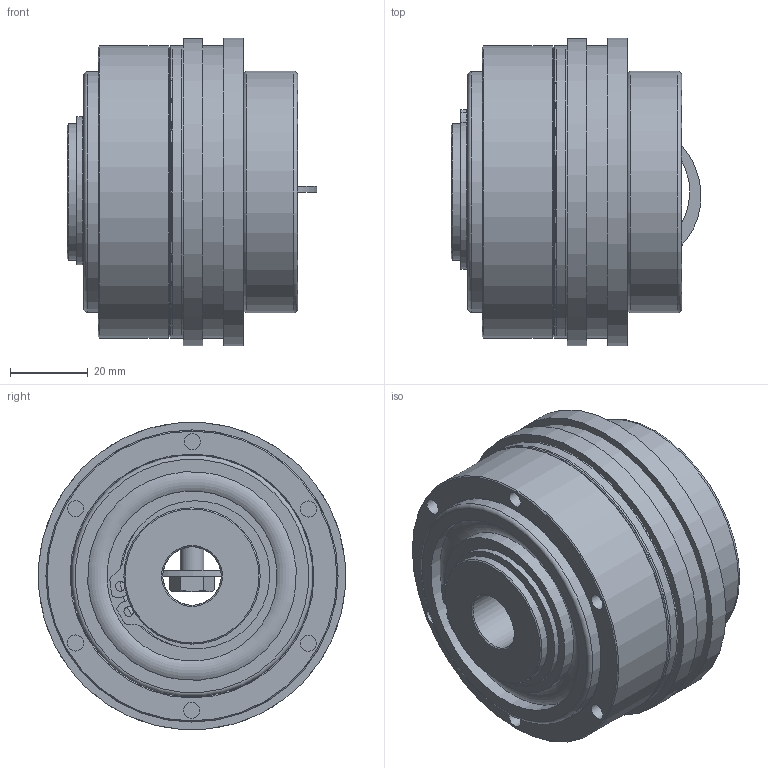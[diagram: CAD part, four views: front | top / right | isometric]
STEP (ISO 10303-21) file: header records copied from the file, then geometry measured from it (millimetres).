
FILE_DESCRIPTION( ( 'Unknown' ), '1' );
FILE_NAME( 'C:/Dokumente und Einstellungen/Sven/Desktop/hp kbk/KBK L-I-60.stp', 'Unknown', ( 'Unknown' ), ( 'Unknown' ), 'XStep 1.0', 'Unknown', ' ' );
FILE_SCHEMA( ( 'automotive_design' ) );
Length unit declared in the file: millimetre
Products named in the file (12): Assem1; Assem2; ball_bearing_-_6007_0_01; ball_bearing_-_6007_0_02; ball_bearing_-_6007_0_03; a_35; Stellring 60; Druckring 60; KBK L-I-60 Grundkörper; Konusbuchse 60; Flansch 60; din_en_24017_m6x20
Bounding box: 64.18 x 79 x 79 mm (x, y, z)
Volume: 338152.2 mm3; surface area: 165149 mm2
Topology: 28 solids, 28 shells, 471 faces, 988 edges, 628 vertices
Faces by surface type: plane 193, cylinder 140, cone 106, torus 32
Full cylindrical faces by diameter (mm): 2.5 x4, 3.242 x6, 4 x6, 4.134 x12, 4.917 x18, 6 x7, 6.6 x12, 8.8 x7, 15 x4, 30.2 x2, 33 x2, 35 x7, 43.7 x6, 44 x2, 46 x4, 46.5 x2, 49.5 x2, 53.6 x6, 61.3 x2, 62 x5, 66 x2, 75 x4, 79 x2
Entity records: 5001 total; most frequent: CARTESIAN_POINT 1055, DIRECTION 794, ORIENTED_EDGE 524, AXIS2_PLACEMENT_3D 369, EDGE_LOOP 318, EDGE_CURVE 262, FACE_OUTER_BOUND 234, VERTEX_POINT 214
